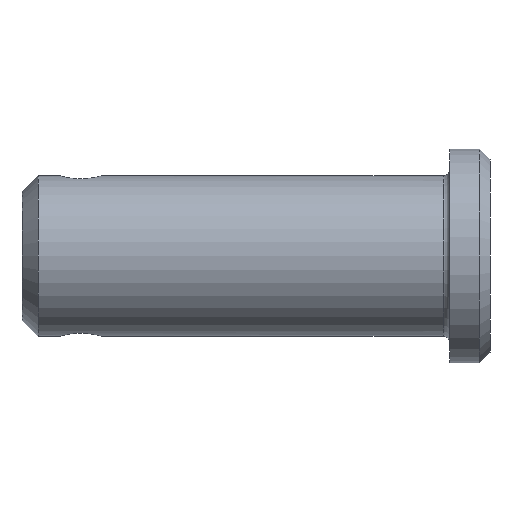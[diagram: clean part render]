
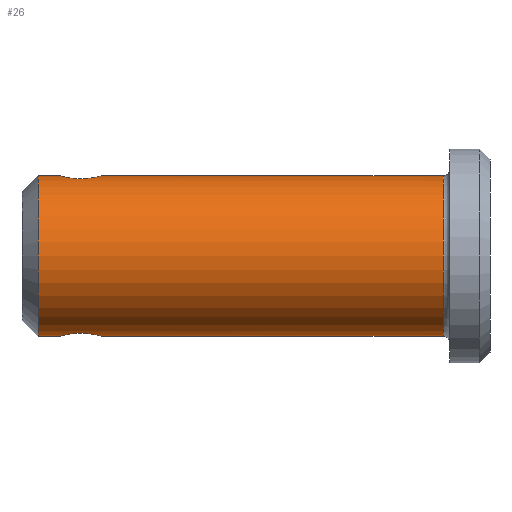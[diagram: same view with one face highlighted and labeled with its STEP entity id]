
A CAD part, front view. The second image highlights one B-rep face of the part: STEP entity #26.
In plain terms, the highlighted cylindrical face has radius 6 mm (diameter 12 mm), a partial arc.
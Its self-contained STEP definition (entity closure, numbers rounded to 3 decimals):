
#2 = VERTEX_POINT ( 'NONE', #226 ) ;
#9 = ORIENTED_EDGE ( 'NONE', *, *, #109, .T. ) ;
#14 = ORIENTED_EDGE ( 'NONE', *, *, #78, .T. ) ;
#18 = ORIENTED_EDGE ( 'NONE', *, *, #25, .F. ) ;
#23 = ORIENTED_EDGE ( 'NONE', *, *, #33, .F. ) ;
#25 = EDGE_CURVE ( 'NONE', #36, #76, #304, .T. ) ;
#26 = ADVANCED_FACE ( 'NONE', ( #311 ), #310, .T. ) ;
#28 = ORIENTED_EDGE ( 'NONE', *, *, #100, .T. ) ;
#33 = EDGE_CURVE ( 'NONE', #58, #36, #179, .T. ) ;
#36 = VERTEX_POINT ( 'NONE', #314 ) ;
#45 = VERTEX_POINT ( 'NONE', #178 ) ;
#53 = EDGE_CURVE ( 'NONE', #57, #45, #161, .T. ) ;
#55 = VERTEX_POINT ( 'NONE', #158 ) ;
#57 = VERTEX_POINT ( 'NONE', #239 ) ;
#58 = VERTEX_POINT ( 'NONE', #235 ) ;
#65 = EDGE_CURVE ( 'NONE', #57, #55, #231, .T. ) ;
#71 = VERTEX_POINT ( 'NONE', #227 ) ;
#76 = VERTEX_POINT ( 'NONE', #200 ) ;
#78 = EDGE_CURVE ( 'NONE', #58, #55, #274, .T. ) ;
#100 = EDGE_CURVE ( 'NONE', #45, #71, #412, .T. ) ;
#108 = EDGE_CURVE ( 'NONE', #71, #2, #463, .T. ) ;
#109 = EDGE_CURVE ( 'NONE', #2, #76, #409, .T. ) ;
#142 = CARTESIAN_POINT ( 'NONE',  ( -26., 0., -6. ) ) ;
#143 = CARTESIAN_POINT ( 'NONE',  ( -26., -0.106, -6. ) ) ;
#144 = CARTESIAN_POINT ( 'NONE',  ( -26.01, -0.211, -5.997 ) ) ;
#145 = CARTESIAN_POINT ( 'NONE',  ( -26.052, -0.417, -5.986 ) ) ;
#146 = CARTESIAN_POINT ( 'NONE',  ( -26.083, -0.519, -5.978 ) ) ;
#147 = CARTESIAN_POINT ( 'NONE',  ( -26.203, -0.808, -5.949 ) ) ;
#148 = CARTESIAN_POINT ( 'NONE',  ( -26.322, -0.985, -5.92 ) ) ;
#149 = CARTESIAN_POINT ( 'NONE',  ( -26.616, -1.279, -5.864 ) ) ;
#150 = CARTESIAN_POINT ( 'NONE',  ( -26.794, -1.398, -5.836 ) ) ;
#151 = CARTESIAN_POINT ( 'NONE',  ( -27.083, -1.518, -5.805 ) ) ;
#152 = CARTESIAN_POINT ( 'NONE',  ( -27.185, -1.549, -5.797 ) ) ;
#153 = CARTESIAN_POINT ( 'NONE',  ( -27.391, -1.59, -5.786 ) ) ;
#154 = CARTESIAN_POINT ( 'NONE',  ( -27.495, -1.6, -5.783 ) ) ;
#155 = CARTESIAN_POINT ( 'NONE',  ( -27.811, -1.6, -5.783 ) ) ;
#158 = CARTESIAN_POINT ( 'NONE',  ( -26., 0., -6. ) ) ;
#161 = CIRCLE ( 'NONE', #282, 6. ) ;
#162 = CARTESIAN_POINT ( 'NONE',  ( -0.5, 0., 0. ) ) ;
#166 = DIRECTION ( 'NONE',  ( -1., 0., 0. ) ) ;
#167 = VECTOR ( 'NONE', #166, 1000. ) ;
#175 = CARTESIAN_POINT ( 'NONE',  ( 0., 0., -6. ) ) ;
#178 = CARTESIAN_POINT ( 'NONE',  ( -0.5, 0., 6. ) ) ;
#179 = LINE ( 'NONE', #175, #167 ) ;
#181 = CARTESIAN_POINT ( 'NONE',  ( 0., 0., 0. ) ) ;
#182 = DIRECTION ( 'NONE',  ( 0., 0., 1. ) ) ;
#184 = ORIENTED_EDGE ( 'NONE', *, *, #65, .F. ) ;
#200 = CARTESIAN_POINT ( 'NONE',  ( -30.8, 0., 6. ) ) ;
#211 = ORIENTED_EDGE ( 'NONE', *, *, #108, .T. ) ;
#213 = ORIENTED_EDGE ( 'NONE', *, *, #53, .T. ) ;
#226 = CARTESIAN_POINT ( 'NONE',  ( -29.2, 0., 6. ) ) ;
#227 = CARTESIAN_POINT ( 'NONE',  ( -26., 0., 6. ) ) ;
#229 = DIRECTION ( 'NONE',  ( -1., 0., 0. ) ) ;
#230 = VECTOR ( 'NONE', #229, 1000. ) ;
#231 = LINE ( 'NONE', #233, #230 ) ;
#233 = CARTESIAN_POINT ( 'NONE',  ( 0., 0., -6. ) ) ;
#235 = CARTESIAN_POINT ( 'NONE',  ( -29.2, 0., -6. ) ) ;
#239 = CARTESIAN_POINT ( 'NONE',  ( -0.5, 0., -6. ) ) ;
#240 = DIRECTION ( 'NONE',  ( 0., 0., -1. ) ) ;
#242 = DIRECTION ( 'NONE',  ( -1., 0., 0. ) ) ;
#248 = EDGE_LOOP ( 'NONE', ( #184, #213, #28, #211, #9, #18, #23, #14 ) ) ;
#253 = CARTESIAN_POINT ( 'NONE',  ( -28.871, -0.977, -5.921 ) ) ;
#254 = CARTESIAN_POINT ( 'NONE',  ( -28.988, -0.804, -5.947 ) ) ;
#255 = CARTESIAN_POINT ( 'NONE',  ( -29.038, -0.71, -5.959 ) ) ;
#256 = CARTESIAN_POINT ( 'NONE',  ( -29.158, -0.421, -5.988 ) ) ;
#257 = CARTESIAN_POINT ( 'NONE',  ( -29.2, -0.209, -6. ) ) ;
#258 = CARTESIAN_POINT ( 'NONE',  ( -29.2, 0., -6. ) ) ;
#267 = CARTESIAN_POINT ( 'NONE',  ( -28.02, -1.558, -5.795 ) ) ;
#268 = CARTESIAN_POINT ( 'NONE',  ( -28.312, -1.437, -5.826 ) ) ;
#269 = CARTESIAN_POINT ( 'NONE',  ( -28.404, -1.387, -5.838 ) ) ;
#270 = CARTESIAN_POINT ( 'NONE',  ( -28.576, -1.272, -5.864 ) ) ;
#271 = CARTESIAN_POINT ( 'NONE',  ( -28.658, -1.205, -5.878 ) ) ;
#272 = CARTESIAN_POINT ( 'NONE',  ( -28.805, -1.057, -5.907 ) ) ;
#274 = B_SPLINE_CURVE_WITH_KNOTS ( 'NONE', 3,
 ( #258, #257, #256, #255, #254, #253, #272, #271, #270, #269, #268, #267, #155, #154, #153, #152, #151, #150, #149, #148, #147, #146, #145, #144, #143, #142 ),
 .UNSPECIFIED., .F., .F.,
 ( 4, 2, 2, 2, 2, 2, 2, 2, 2, 2, 2, 2, 4 ),
 ( 0.005, 0.006, 0.006, 0.006, 0.007, 0.007, 0.008, 0.008, 0.008, 0.009, 0.009, 0.01, 0.01 ),
 .UNSPECIFIED. ) ;
#275 = AXIS2_PLACEMENT_3D ( 'NONE', #181, #305, #316 ) ;
#282 = AXIS2_PLACEMENT_3D ( 'NONE', #162, #242, #240 ) ;
#302 = DIRECTION ( 'NONE',  ( -1., 0., 0. ) ) ;
#303 = AXIS2_PLACEMENT_3D ( 'NONE', #313, #302, #182 ) ;
#304 = CIRCLE ( 'NONE', #303, 6. ) ;
#305 = DIRECTION ( 'NONE',  ( -1., 0., 0. ) ) ;
#310 = CYLINDRICAL_SURFACE ( 'NONE', #275, 6. ) ;
#311 = FACE_OUTER_BOUND ( 'NONE', #248, .T. ) ;
#313 = CARTESIAN_POINT ( 'NONE',  ( -30.8, 0., 0. ) ) ;
#314 = CARTESIAN_POINT ( 'NONE',  ( -30.8, 0., -6. ) ) ;
#316 = DIRECTION ( 'NONE',  ( 0., 0., 1. ) ) ;
#335 = CARTESIAN_POINT ( 'NONE',  ( -26.396, -1.058, 5.906 ) ) ;
#336 = CARTESIAN_POINT ( 'NONE',  ( -26.328, -0.977, 5.921 ) ) ;
#337 = CARTESIAN_POINT ( 'NONE',  ( -26.212, -0.803, 5.947 ) ) ;
#338 = CARTESIAN_POINT ( 'NONE',  ( -26.163, -0.711, 5.958 ) ) ;
#339 = CARTESIAN_POINT ( 'NONE',  ( -26.082, -0.518, 5.978 ) ) ;
#340 = CARTESIAN_POINT ( 'NONE',  ( -26.051, -0.416, 5.986 ) ) ;
#341 = CARTESIAN_POINT ( 'NONE',  ( -26.01, -0.211, 5.997 ) ) ;
#392 = CARTESIAN_POINT ( 'NONE',  ( -29.2, 0., 6. ) ) ;
#393 = CARTESIAN_POINT ( 'NONE',  ( -29.2, -0.105, 6. ) ) ;
#394 = CARTESIAN_POINT ( 'NONE',  ( -29.19, -0.211, 5.997 ) ) ;
#395 = CARTESIAN_POINT ( 'NONE',  ( -29.148, -0.417, 5.986 ) ) ;
#396 = CARTESIAN_POINT ( 'NONE',  ( -29.118, -0.517, 5.978 ) ) ;
#397 = CARTESIAN_POINT ( 'NONE',  ( -29.038, -0.71, 5.959 ) ) ;
#398 = CARTESIAN_POINT ( 'NONE',  ( -28.987, -0.804, 5.947 ) ) ;
#399 = CARTESIAN_POINT ( 'NONE',  ( -28.872, -0.977, 5.921 ) ) ;
#400 = CARTESIAN_POINT ( 'NONE',  ( -28.806, -1.057, 5.907 ) ) ;
#401 = CARTESIAN_POINT ( 'NONE',  ( -28.584, -1.279, 5.864 ) ) ;
#406 = DIRECTION ( 'NONE',  ( -1., 0., 0. ) ) ;
#407 = VECTOR ( 'NONE', #406, 1000. ) ;
#408 = CARTESIAN_POINT ( 'NONE',  ( 0., 0., 6. ) ) ;
#409 = LINE ( 'NONE', #408, #407 ) ;
#411 = CARTESIAN_POINT ( 'NONE',  ( 0., 0., 6. ) ) ;
#412 = LINE ( 'NONE', #411, #494 ) ;
#461 = CARTESIAN_POINT ( 'NONE',  ( -26., -0.106, 6. ) ) ;
#462 = CARTESIAN_POINT ( 'NONE',  ( -26., 0., 6. ) ) ;
#463 = B_SPLINE_CURVE_WITH_KNOTS ( 'NONE', 3,
 ( #462, #461, #341, #340, #339, #338, #337, #336, #335, #472, #471, #470, #469, #468, #467, #466, #465, #464, #401, #400, #399, #398, #397, #396, #395, #394, #393, #392 ),
 .UNSPECIFIED., .F., .F.,
 ( 4, 2, 2, 2, 2, 2, 2, 2, 2, 2, 2, 2, 2, 4 ),
 ( 0., 0., 0.001, 0.001, 0.001, 0.002, 0.003, 0.003, 0.003, 0.004, 0.004, 0.004, 0.005, 0.005 ),
 .UNSPECIFIED. ) ;
#464 = CARTESIAN_POINT ( 'NONE',  ( -28.408, -1.397, 5.836 ) ) ;
#465 = CARTESIAN_POINT ( 'NONE',  ( -28.116, -1.518, 5.805 ) ) ;
#466 = CARTESIAN_POINT ( 'NONE',  ( -28.016, -1.548, 5.797 ) ) ;
#467 = CARTESIAN_POINT ( 'NONE',  ( -27.811, -1.59, 5.786 ) ) ;
#468 = CARTESIAN_POINT ( 'NONE',  ( -27.704, -1.6, 5.783 ) ) ;
#469 = CARTESIAN_POINT ( 'NONE',  ( -27.39, -1.6, 5.783 ) ) ;
#470 = CARTESIAN_POINT ( 'NONE',  ( -27.178, -1.557, 5.795 ) ) ;
#471 = CARTESIAN_POINT ( 'NONE',  ( -26.794, -1.398, 5.836 ) ) ;
#472 = CARTESIAN_POINT ( 'NONE',  ( -26.616, -1.279, 5.864 ) ) ;
#494 = VECTOR ( 'NONE', #497, 1000. ) ;
#497 = DIRECTION ( 'NONE',  ( -1., 0., 0. ) ) ;
